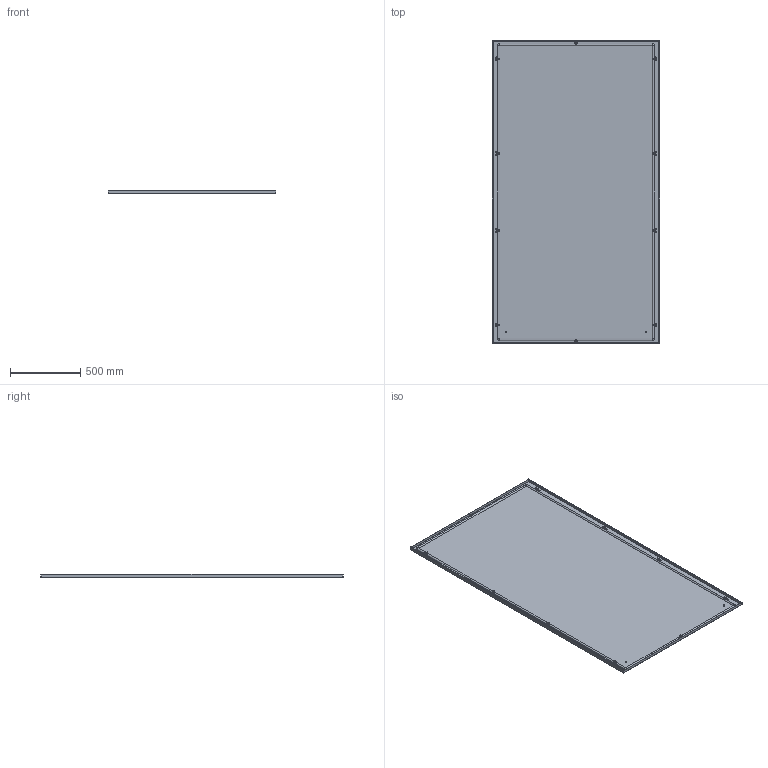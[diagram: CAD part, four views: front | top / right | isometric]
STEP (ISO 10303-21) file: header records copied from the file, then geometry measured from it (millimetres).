
FILE_DESCRIPTION(('Open CASCADE Model'),'2;1');
FILE_NAME('Open CASCADE Shape Model','2025-02-07T16:30:54',('Author'),( 'Open CASCADE'),'Open CASCADE STEP processor 7.8','Open CASCADE 7.8' ,'Unknown');
FILE_SCHEMA(('AUTOMOTIVE_DESIGN { 1 0 10303 214 1 1 1 1 }'));
Length unit declared in the file: millimetre
Products named in the file (10): Compound1; Compound2; Compound3; Solid1; Solid2; Solid3; Solid4; Solid5; Solid6; Solid7
Assembly tree (46 placements, depth 4):
  Compound1
    Compound2
      Compound3
        Solid1
        Solid2  x4
      Solid3
    Solid4  x10
    Solid5  x8
    Solid6  x10
    Solid7  x10
Bounding box: 1194 x 2155 x 23.8 mm (x, y, z)
Volume: 4703975.8 mm3; surface area: 5778287.3 mm2
Topology: 44 solids, 44 shells, 1897 faces, 4610 edges, 2804 vertices
Faces by surface type: plane 1157, cone 384, cylinder 312, torus 34, bspline 10
Full cylindrical faces by diameter (mm): 5 x20, 6 x164, 7.5 x4, 8 x20, 10 x10, 11.57 x10
Entity records: 7881 total; most frequent: CARTESIAN_POINT 1467, DIRECTION 1289, ORIENTED_EDGE 1256, EDGE_CURVE 628, AXIS2_PLACEMENT_3D 440, LINE 409, VECTOR 409, VERTEX_POINT 391
